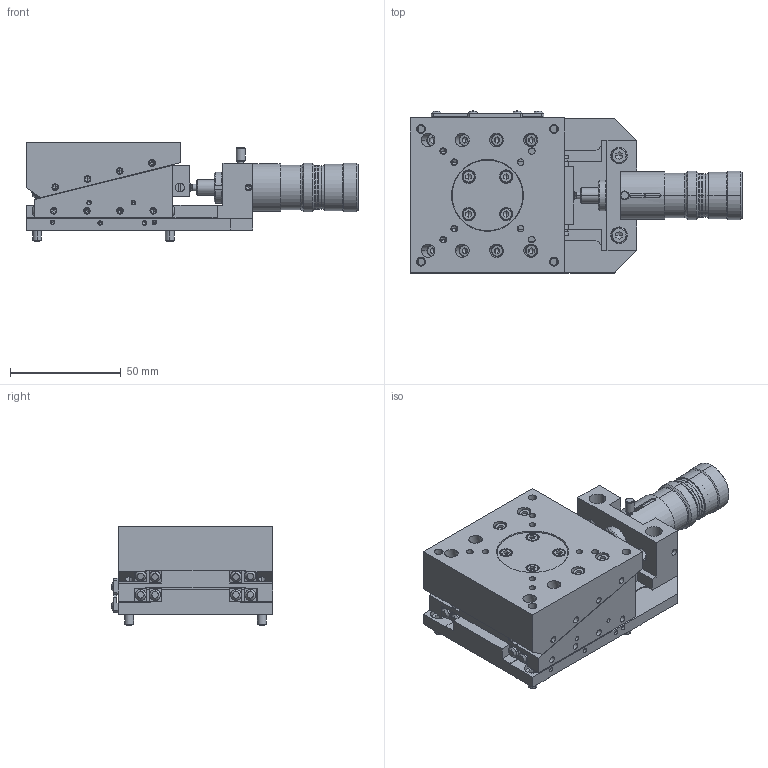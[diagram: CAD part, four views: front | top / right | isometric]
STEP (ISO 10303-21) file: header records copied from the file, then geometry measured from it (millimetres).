
FILE_DESCRIPTION (( 'STEP AP203' ), '1' );
FILE_NAME ('ZM07A-C3C-R.STEP', '2015-05-21T09:25:39', ( '' ), ( '' ), 'SwSTEP 2.0', 'SolidWorks 2011', '' );
FILE_SCHEMA (( 'CONFIG_CONTROL_DESIGN' ));
Length unit declared in the file: millimetre
Products named in the file (10): ZM07A-C3C-R; base-34; table-25; LowHeadCapM4×6-7; LowHeadCapM4×6-6; LowHeadCapM4×6-5; LowHeadCapM4×6-4; wedge-1; wedge-Part-2-1; wedge-Part-1-1
Assembly tree (9 placements, depth 3):
  ZM07A-C3C-R
    LowHeadCapM4×6-4
    wedge-1
      wedge-Part-1-1
      wedge-Part-2-1
    table-25
    LowHeadCapM4×6-6
    base-34
    LowHeadCapM4×6-7
    LowHeadCapM4×6-5
Bounding box: 150 x 73.18 x 45 mm (x, y, z)
Volume: 201385.1 mm3; surface area: 81145.4 mm2
Topology: 8 solids, 62 shells, 2366 faces, 5243 edges, 3073 vertices
Faces by surface type: plane 1156, cylinder 710, cone 484, sphere 12, torus 4
Entity records: 65127 total; most frequent: DIRECTION 11768, CARTESIAN_POINT 11289, ORIENTED_EDGE 10170, EDGE_CURVE 5085, AXIS2_PLACEMENT_3D 4408, VERTEX_POINT 3073, VECTOR 2952, LINE 2952
